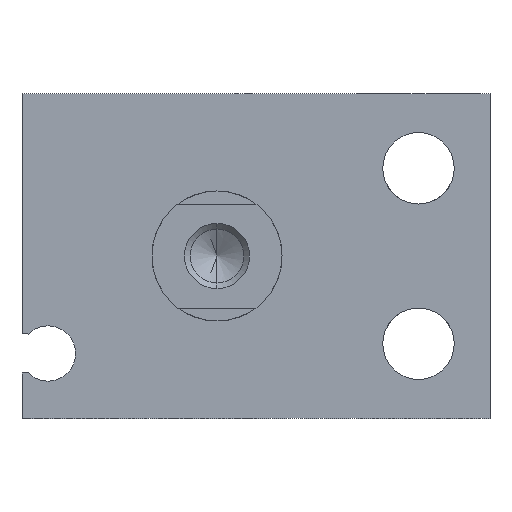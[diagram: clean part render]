
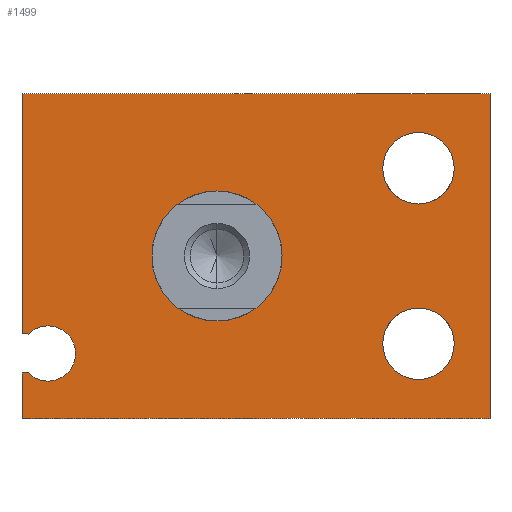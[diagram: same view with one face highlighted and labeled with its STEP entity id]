
A CAD part, left-side view. The second image highlights one B-rep face of the part: STEP entity #1499.
In plain terms, the highlighted planar face has unit normal (-1, 0, 0).
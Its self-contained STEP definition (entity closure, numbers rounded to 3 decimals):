
#1 = CARTESIAN_POINT ( 'NONE',  ( 0., 13., -7.5 ) ) ;
#14 = AXIS2_PLACEMENT_3D ( 'NONE', #1, #1749, #2016 ) ;
#25 = LINE ( 'NONE', #484, #119 ) ;
#26 = DIRECTION ( 'NONE',  ( 0., 0., -1. ) ) ;
#60 = VECTOR ( 'NONE', #1568, 1000. ) ;
#79 = VERTEX_POINT ( 'NONE', #704 ) ;
#81 = CARTESIAN_POINT ( 'NONE',  ( 0., 13., -5.375 ) ) ;
#104 = ORIENTED_EDGE ( 'NONE', *, *, #798, .T. ) ;
#119 = VECTOR ( 'NONE', #762, 1000. ) ;
#140 = CARTESIAN_POINT ( 'NONE',  ( 0., -15.5, 4. ) ) ;
#161 = ORIENTED_EDGE ( 'NONE', *, *, #3090, .F. ) ;
#242 = CARTESIAN_POINT ( 'NONE',  ( 0., 15., -9. ) ) ;
#310 = VERTEX_POINT ( 'NONE', #2788 ) ;
#314 = CARTESIAN_POINT ( 'NONE',  ( 0., 15., 12.5 ) ) ;
#359 = VERTEX_POINT ( 'NONE', #2170 ) ;
#361 = VECTOR ( 'NONE', #2562, 1000. ) ;
#379 = AXIS2_PLACEMENT_3D ( 'NONE', #934, #1179, #2676 ) ;
#412 = VERTEX_POINT ( 'NONE', #2134 ) ;
#460 = EDGE_CURVE ( 'NONE', #2627, #2661, #513, .T. ) ;
#484 = CARTESIAN_POINT ( 'NONE',  ( 0., -21., 12.5 ) ) ;
#496 = VECTOR ( 'NONE', #613, 1000. ) ;
#498 = CARTESIAN_POINT ( 'NONE',  ( 0., -21., 12.5 ) ) ;
#502 = CARTESIAN_POINT ( 'NONE',  ( 0., 0., 0. ) ) ;
#505 = ORIENTED_EDGE ( 'NONE', *, *, #2712, .T. ) ;
#510 = DIRECTION ( 'NONE',  ( 0., -1., 0. ) ) ;
#513 = CIRCLE ( 'NONE', #2350, 2.75 ) ;
#532 = CARTESIAN_POINT ( 'NONE',  ( 0., -15.5, -9.5 ) ) ;
#534 = AXIS2_PLACEMENT_3D ( 'NONE', #3005, #1760, #2755 ) ;
#575 = CIRCLE ( 'NONE', #534, 2.75 ) ;
#613 = DIRECTION ( 'NONE',  ( 0., -1., 0. ) ) ;
#626 = AXIS2_PLACEMENT_3D ( 'NONE', #502, #1498, #26 ) ;
#660 = ORIENTED_EDGE ( 'NONE', *, *, #2093, .F. ) ;
#662 = EDGE_LOOP ( 'NONE', ( #2472, #1928, #1182, #104, #1619, #1675, #660, #161, #2894, #891 ) ) ;
#664 = CARTESIAN_POINT ( 'NONE',  ( 0., 0., 0. ) ) ;
#685 = VECTOR ( 'NONE', #2785, 1000. ) ;
#704 = CARTESIAN_POINT ( 'NONE',  ( 0., 0., -5. ) ) ;
#742 = CARTESIAN_POINT ( 'NONE',  ( 0., 14.505, -9. ) ) ;
#762 = DIRECTION ( 'NONE',  ( 0., 1., 0. ) ) ;
#798 = EDGE_CURVE ( 'NONE', #3228, #2688, #2087, .T. ) ;
#846 = CARTESIAN_POINT ( 'NONE',  ( 0., 13., -7.5 ) ) ;
#864 = VERTEX_POINT ( 'NONE', #2070 ) ;
#891 = ORIENTED_EDGE ( 'NONE', *, *, #2368, .T. ) ;
#933 = CARTESIAN_POINT ( 'NONE',  ( 0., 15., -6. ) ) ;
#934 = CARTESIAN_POINT ( 'NONE',  ( 0., 13., -7.5 ) ) ;
#950 = CIRCLE ( 'NONE', #626, 5. ) ;
#962 = VERTEX_POINT ( 'NONE', #1187 ) ;
#1018 = PLANE ( 'NONE',  #2554 ) ;
#1067 = VERTEX_POINT ( 'NONE', #1670 ) ;
#1122 = CIRCLE ( 'NONE', #2595, 2.75 ) ;
#1138 = LINE ( 'NONE', #1809, #60 ) ;
#1156 = DIRECTION ( 'NONE',  ( -1., 0., 0. ) ) ;
#1179 = DIRECTION ( 'NONE',  ( -1., 0., 0. ) ) ;
#1182 = ORIENTED_EDGE ( 'NONE', *, *, #1550, .T. ) ;
#1187 = CARTESIAN_POINT ( 'NONE',  ( 0., -21., -12.5 ) ) ;
#1251 = FACE_BOUND ( 'NONE', #2988, .T. ) ;
#1255 = ORIENTED_EDGE ( 'NONE', *, *, #2881, .F. ) ;
#1264 = ORIENTED_EDGE ( 'NONE', *, *, #460, .F. ) ;
#1269 = FACE_OUTER_BOUND ( 'NONE', #662, .T. ) ;
#1309 = EDGE_CURVE ( 'NONE', #2688, #864, #2762, .T. ) ;
#1315 = DIRECTION ( 'NONE',  ( 0., 0., 1. ) ) ;
#1359 = DIRECTION ( 'NONE',  ( 0., 0., 1. ) ) ;
#1386 = CIRCLE ( 'NONE', #379, 2.125 ) ;
#1453 = ORIENTED_EDGE ( 'NONE', *, *, #2294, .F. ) ;
#1498 = DIRECTION ( 'NONE',  ( 1., 0., 0. ) ) ;
#1499 = ADVANCED_FACE ( 'NONE', ( #1269, #2541, #1251, #2278 ), #1018, .T. ) ;
#1549 = EDGE_LOOP ( 'NONE', ( #2822, #1264 ) ) ;
#1550 = EDGE_CURVE ( 'NONE', #2882, #3228, #25, .T. ) ;
#1554 = AXIS2_PLACEMENT_3D ( 'NONE', #2295, #2482, #3043 ) ;
#1562 = LINE ( 'NONE', #2739, #685 ) ;
#1568 = DIRECTION ( 'NONE',  ( 0., 1., 0. ) ) ;
#1573 = VERTEX_POINT ( 'NONE', #2535 ) ;
#1599 = CIRCLE ( 'NONE', #1554, 2.75 ) ;
#1619 = ORIENTED_EDGE ( 'NONE', *, *, #1309, .T. ) ;
#1639 = DIRECTION ( 'NONE',  ( -1., 0., 0. ) ) ;
#1660 = CARTESIAN_POINT ( 'NONE',  ( 0., -15.5, 9.5 ) ) ;
#1670 = CARTESIAN_POINT ( 'NONE',  ( 0., 15., -12.5 ) ) ;
#1675 = ORIENTED_EDGE ( 'NONE', *, *, #2976, .F. ) ;
#1677 = VECTOR ( 'NONE', #2618, 1000. ) ;
#1697 = CARTESIAN_POINT ( 'NONE',  ( 0., 15., -12.5 ) ) ;
#1708 = VECTOR ( 'NONE', #510, 1000. ) ;
#1749 = DIRECTION ( 'NONE',  ( -1., 0., 0. ) ) ;
#1760 = DIRECTION ( 'NONE',  ( -1., 0., 0. ) ) ;
#1782 = DIRECTION ( 'NONE',  ( 0., 0., 1. ) ) ;
#1809 = CARTESIAN_POINT ( 'NONE',  ( 0., 14.505, -9. ) ) ;
#1869 = VERTEX_POINT ( 'NONE', #81 ) ;
#1892 = EDGE_LOOP ( 'NONE', ( #505, #2206 ) ) ;
#1893 = VERTEX_POINT ( 'NONE', #532 ) ;
#1928 = ORIENTED_EDGE ( 'NONE', *, *, #2320, .T. ) ;
#2016 = DIRECTION ( 'NONE',  ( 0., 0., 1. ) ) ;
#2030 = CIRCLE ( 'NONE', #2701, 2.125 ) ;
#2033 = CARTESIAN_POINT ( 'NONE',  ( 0., 13., -7.5 ) ) ;
#2070 = CARTESIAN_POINT ( 'NONE',  ( 0., 14.505, -6. ) ) ;
#2087 = LINE ( 'NONE', #314, #1677 ) ;
#2093 = EDGE_CURVE ( 'NONE', #310, #1869, #2430, .T. ) ;
#2134 = CARTESIAN_POINT ( 'NONE',  ( 0., 15., -9. ) ) ;
#2138 = CARTESIAN_POINT ( 'NONE',  ( 0., -15.5, 6.75 ) ) ;
#2151 = CARTESIAN_POINT ( 'NONE',  ( 0., -15.5, 6.75 ) ) ;
#2170 = CARTESIAN_POINT ( 'NONE',  ( 0., 0., 5. ) ) ;
#2176 = EDGE_CURVE ( 'NONE', #2883, #412, #1138, .T. ) ;
#2206 = ORIENTED_EDGE ( 'NONE', *, *, #2352, .T. ) ;
#2278 = FACE_BOUND ( 'NONE', #1549, .T. ) ;
#2294 = EDGE_CURVE ( 'NONE', #1573, #1893, #575, .T. ) ;
#2295 = CARTESIAN_POINT ( 'NONE',  ( 0., -15.5, -6.75 ) ) ;
#2320 = EDGE_CURVE ( 'NONE', #962, #2882, #1562, .T. ) ;
#2350 = AXIS2_PLACEMENT_3D ( 'NONE', #2151, #1156, #2413 ) ;
#2352 = EDGE_CURVE ( 'NONE', #359, #79, #950, .T. ) ;
#2368 = EDGE_CURVE ( 'NONE', #412, #1067, #2522, .T. ) ;
#2413 = DIRECTION ( 'NONE',  ( 0., 0., 1. ) ) ;
#2430 = CIRCLE ( 'NONE', #14, 2.125 ) ;
#2472 = ORIENTED_EDGE ( 'NONE', *, *, #3123, .T. ) ;
#2482 = DIRECTION ( 'NONE',  ( -1., 0., 0. ) ) ;
#2522 = LINE ( 'NONE', #242, #361 ) ;
#2535 = CARTESIAN_POINT ( 'NONE',  ( 0., -15.5, -4. ) ) ;
#2541 = FACE_BOUND ( 'NONE', #1892, .T. ) ;
#2552 = AXIS2_PLACEMENT_3D ( 'NONE', #664, #3111, #2934 ) ;
#2554 = AXIS2_PLACEMENT_3D ( 'NONE', #2033, #3026, #1782 ) ;
#2562 = DIRECTION ( 'NONE',  ( 0., 0., -1. ) ) ;
#2595 = AXIS2_PLACEMENT_3D ( 'NONE', #2138, #1639, #1359 ) ;
#2618 = DIRECTION ( 'NONE',  ( 0., 0., -1. ) ) ;
#2627 = VERTEX_POINT ( 'NONE', #140 ) ;
#2659 = LINE ( 'NONE', #1697, #496 ) ;
#2661 = VERTEX_POINT ( 'NONE', #1660 ) ;
#2676 = DIRECTION ( 'NONE',  ( 0., 0., 1. ) ) ;
#2688 = VERTEX_POINT ( 'NONE', #933 ) ;
#2701 = AXIS2_PLACEMENT_3D ( 'NONE', #846, #2849, #1315 ) ;
#2712 = EDGE_CURVE ( 'NONE', #79, #359, #2898, .T. ) ;
#2735 = EDGE_CURVE ( 'NONE', #2661, #2627, #1122, .T. ) ;
#2739 = CARTESIAN_POINT ( 'NONE',  ( 0., -21., -12.5 ) ) ;
#2755 = DIRECTION ( 'NONE',  ( 0., 0., 1. ) ) ;
#2762 = LINE ( 'NONE', #2856, #1708 ) ;
#2785 = DIRECTION ( 'NONE',  ( 0., 0., 1. ) ) ;
#2788 = CARTESIAN_POINT ( 'NONE',  ( 0., 13., -9.625 ) ) ;
#2822 = ORIENTED_EDGE ( 'NONE', *, *, #2735, .F. ) ;
#2849 = DIRECTION ( 'NONE',  ( -1., 0., 0. ) ) ;
#2856 = CARTESIAN_POINT ( 'NONE',  ( 0., 15., -6. ) ) ;
#2881 = EDGE_CURVE ( 'NONE', #1893, #1573, #1599, .T. ) ;
#2882 = VERTEX_POINT ( 'NONE', #498 ) ;
#2883 = VERTEX_POINT ( 'NONE', #742 ) ;
#2894 = ORIENTED_EDGE ( 'NONE', *, *, #2176, .T. ) ;
#2898 = CIRCLE ( 'NONE', #2552, 5. ) ;
#2934 = DIRECTION ( 'NONE',  ( 0., 0., -1. ) ) ;
#2976 = EDGE_CURVE ( 'NONE', #1869, #864, #2030, .T. ) ;
#2988 = EDGE_LOOP ( 'NONE', ( #1453, #1255 ) ) ;
#3005 = CARTESIAN_POINT ( 'NONE',  ( 0., -15.5, -6.75 ) ) ;
#3026 = DIRECTION ( 'NONE',  ( -1., 0., 0. ) ) ;
#3043 = DIRECTION ( 'NONE',  ( 0., 0., 1. ) ) ;
#3090 = EDGE_CURVE ( 'NONE', #2883, #310, #1386, .T. ) ;
#3111 = DIRECTION ( 'NONE',  ( 1., 0., 0. ) ) ;
#3123 = EDGE_CURVE ( 'NONE', #1067, #962, #2659, .T. ) ;
#3209 = CARTESIAN_POINT ( 'NONE',  ( 0., 15., 12.5 ) ) ;
#3228 = VERTEX_POINT ( 'NONE', #3209 ) ;
